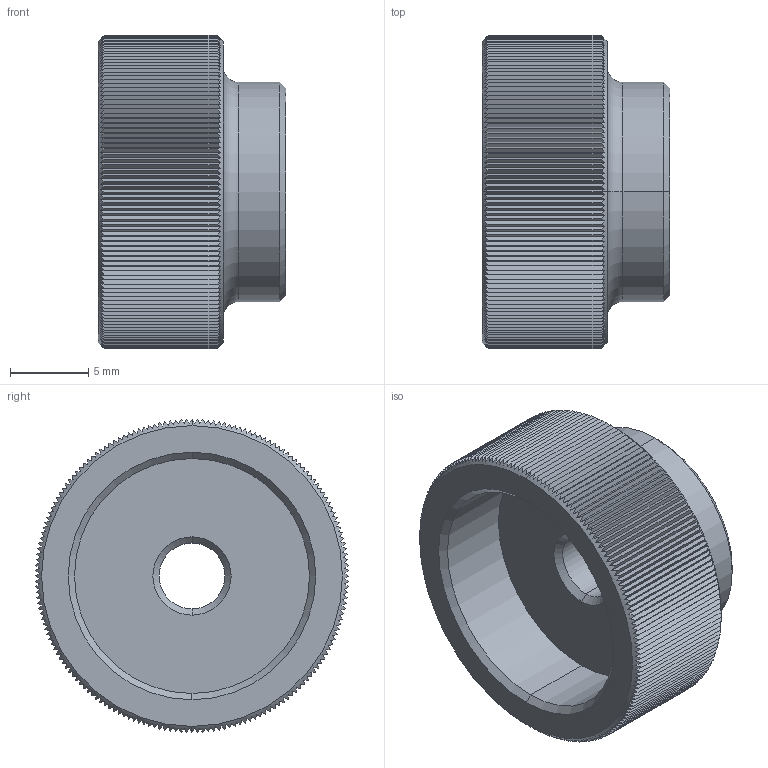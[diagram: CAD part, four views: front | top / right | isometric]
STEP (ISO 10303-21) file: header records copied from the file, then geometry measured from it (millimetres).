
FILE_DESCRIPTION (( 'STEP AP203' ), '1' );
FILE_NAME ('37170.W0005.step', '2011-09-15T08:20:55', ( 'Wixroyd' ), ( 'Wixroyd' ), 'SwSTEP 2.0', 'SolidWorks 2009', '' );
FILE_SCHEMA (( 'CONFIG_CONTROL_DESIGN' ));
Length unit declared in the file: millimetre
Products named in the file (1): 37170.W0005
Bounding box: 12 x 20 x 20 mm (x, y, z)
Volume: 2082.3 mm3; surface area: 1871.1 mm2
Topology: 1 solids, 1 shells, 382 faces, 1122 edges, 744 vertices
Faces by surface type: plane 364, cone 10, cylinder 6, torus 2
Entity records: 13237 total; most frequent: CARTESIAN_POINT 4409, ORIENTED_EDGE 2244, DIRECTION 1194, EDGE_CURVE 1122, VERTEX_POINT 744, B_SPLINE_CURVE_WITH_KNOTS 720, AXIS2_PLACEMENT_3D 409, EDGE_LOOP 386
